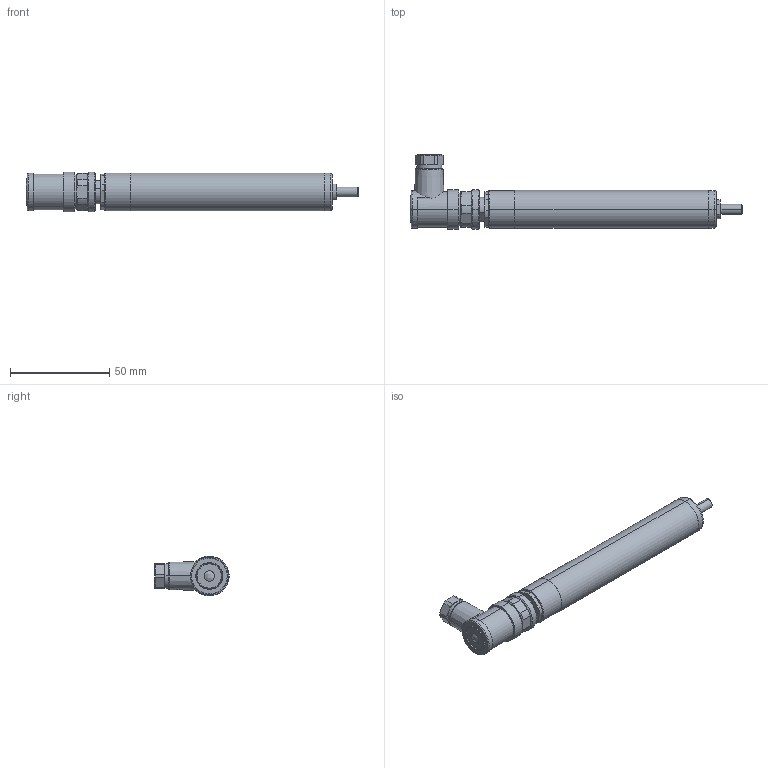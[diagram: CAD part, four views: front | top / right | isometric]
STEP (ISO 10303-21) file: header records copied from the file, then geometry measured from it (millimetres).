
FILE_DESCRIPTION (( 'STEP AP214' ), '1' );
FILE_NAME ('P117-5AJ.STEP', '2025-04-10T10:28:58', ( '' ), ( '' ), 'SwSTEP 2.0', 'SolidWorks 2023', '' );
FILE_SCHEMA (( 'AUTOMOTIVE_DESIGN' ));
Length unit declared in the file: millimetre
Products named in the file (1): P117-5AJ
Bounding box: 167.41 x 37.5 x 20 mm (x, y, z)
Surface area: 13381.3 mm2 (no closed solid volume)
Topology: 0 solids, 10 shells, 167 faces, 407 edges, 263 vertices
Faces by surface type: plane 66, cylinder 51, cone 33, bspline 13, torus 4
Entity records: 5424 total; most frequent: CARTESIAN_POINT 1529, DIRECTION 844, ORIENTED_EDGE 754, EDGE_CURVE 407, AXIS2_PLACEMENT_3D 340, VERTEX_POINT 263, EDGE_LOOP 189, CIRCLE 185
